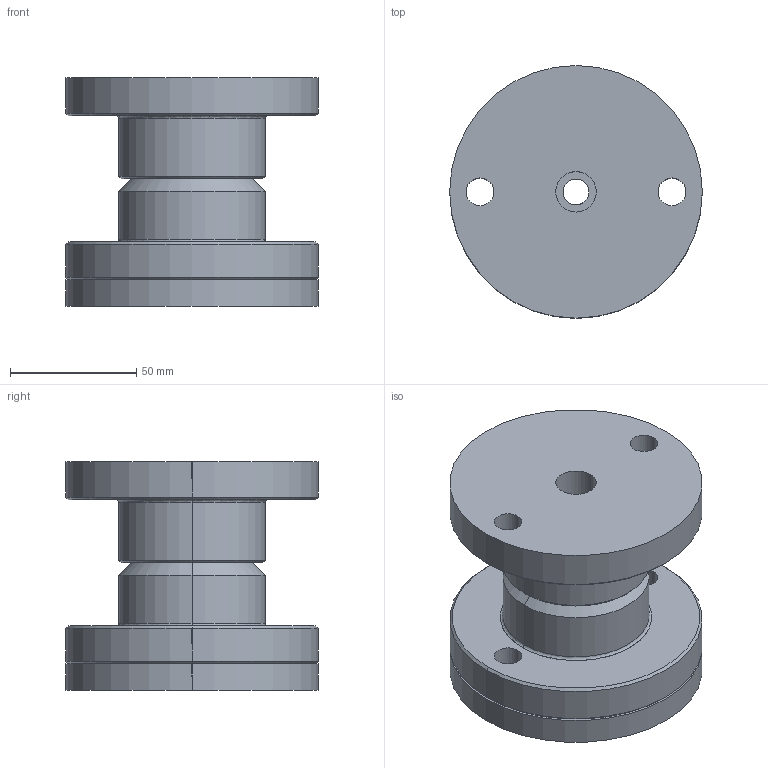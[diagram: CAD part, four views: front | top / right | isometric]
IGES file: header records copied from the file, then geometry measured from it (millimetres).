
Start section: START RECORD GO HERE.
Global section: file name: CFCCP10.igs; native system: DASSAULT SYSTEMES CATIA V5 R20 - www.3ds.com; preprocessor: CATIA Version 5 Release 20 ; author: Utente; organization: NB04-ASUS; date: 20201027.205544; units: millimetre
Bounding box: 100 x 100 x 90.5 mm (x, y, z)
Surface area: 74303.9 mm2 (no closed solid volume)
Topology: 0 solids, 0 shells, 80 faces, 356 edges, 352 vertices
Faces by surface type: revolution 72, plane 8
